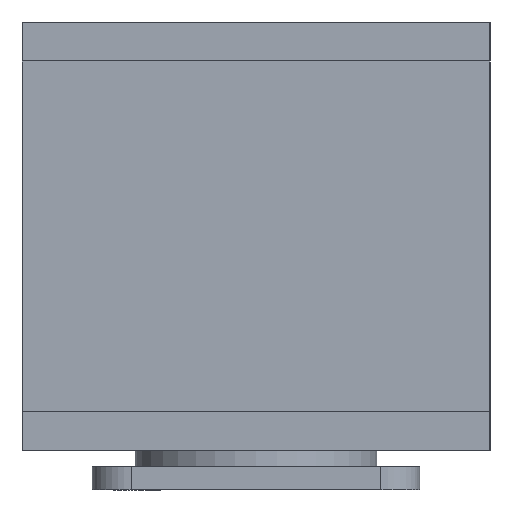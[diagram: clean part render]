
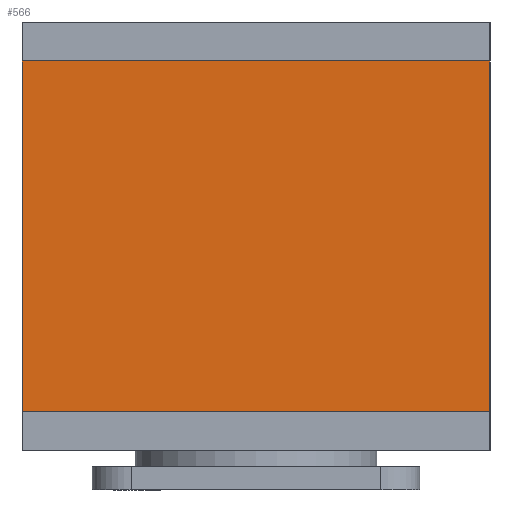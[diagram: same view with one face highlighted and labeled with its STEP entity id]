
A CAD part, left-side view. The second image highlights one B-rep face of the part: STEP entity #566.
In plain terms, the highlighted planar face has unit normal (-1, 0, 0).
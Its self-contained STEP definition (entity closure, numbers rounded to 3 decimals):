
#29 = ORIENTED_EDGE ( 'NONE', *, *, #1343, .F. ) ;
#30 = CARTESIAN_POINT ( 'NONE',  ( -30., -30., 45. ) ) ;
#114 = VERTEX_POINT ( 'NONE', #1498 ) ;
#117 = VERTEX_POINT ( 'NONE', #30 ) ;
#135 = EDGE_LOOP ( 'NONE', ( #2007, #2322, #29, #1561 ) ) ;
#165 = EDGE_CURVE ( 'NONE', #114, #242, #1167, .T. ) ;
#207 = EDGE_CURVE ( 'NONE', #672, #114, #1387, .T. ) ;
#242 = VERTEX_POINT ( 'NONE', #244 ) ;
#244 = CARTESIAN_POINT ( 'NONE',  ( -30., -30., 0. ) ) ;
#259 = CARTESIAN_POINT ( 'NONE',  ( -30., 30., 45. ) ) ;
#544 = EDGE_CURVE ( 'NONE', #117, #242, #1713, .T. ) ;
#545 = VECTOR ( 'NONE', #2326, 1000. ) ;
#566 = ADVANCED_FACE ( 'NONE', ( #772 ), #1348, .F. ) ;
#601 = CARTESIAN_POINT ( 'NONE',  ( -30., 30., 45. ) ) ;
#672 = VERTEX_POINT ( 'NONE', #601 ) ;
#733 = VECTOR ( 'NONE', #2125, 1000. ) ;
#772 = FACE_OUTER_BOUND ( 'NONE', #135, .T. ) ;
#791 = CARTESIAN_POINT ( 'NONE',  ( -30., 30., 0. ) ) ;
#799 = AXIS2_PLACEMENT_3D ( 'NONE', #2067, #1886, #1135 ) ;
#1014 = LINE ( 'NONE', #1773, #545 ) ;
#1030 = VECTOR ( 'NONE', #2101, 1000. ) ;
#1103 = VECTOR ( 'NONE', #1921, 1000. ) ;
#1135 = DIRECTION ( 'NONE',  ( 0., 1., 0. ) ) ;
#1167 = LINE ( 'NONE', #791, #1103 ) ;
#1343 = EDGE_CURVE ( 'NONE', #672, #117, #1014, .T. ) ;
#1348 = PLANE ( 'NONE',  #799 ) ;
#1387 = LINE ( 'NONE', #259, #733 ) ;
#1498 = CARTESIAN_POINT ( 'NONE',  ( -30., 30., 0. ) ) ;
#1561 = ORIENTED_EDGE ( 'NONE', *, *, #207, .T. ) ;
#1702 = CARTESIAN_POINT ( 'NONE',  ( -30., -30., 45. ) ) ;
#1713 = LINE ( 'NONE', #1702, #1030 ) ;
#1773 = CARTESIAN_POINT ( 'NONE',  ( -30., 30., 45. ) ) ;
#1886 = DIRECTION ( 'NONE',  ( 1., 0., 0. ) ) ;
#1921 = DIRECTION ( 'NONE',  ( 0., -1., 0. ) ) ;
#2007 = ORIENTED_EDGE ( 'NONE', *, *, #165, .T. ) ;
#2067 = CARTESIAN_POINT ( 'NONE',  ( -30., 30., 45. ) ) ;
#2101 = DIRECTION ( 'NONE',  ( 0., 0., -1. ) ) ;
#2125 = DIRECTION ( 'NONE',  ( 0., 0., -1. ) ) ;
#2322 = ORIENTED_EDGE ( 'NONE', *, *, #544, .F. ) ;
#2326 = DIRECTION ( 'NONE',  ( 0., -1., 0. ) ) ;
